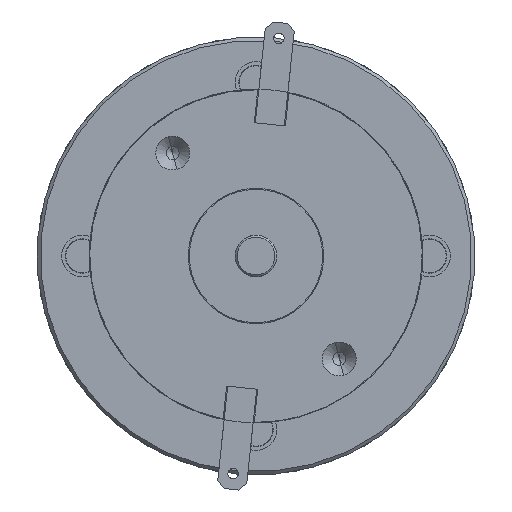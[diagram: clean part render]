
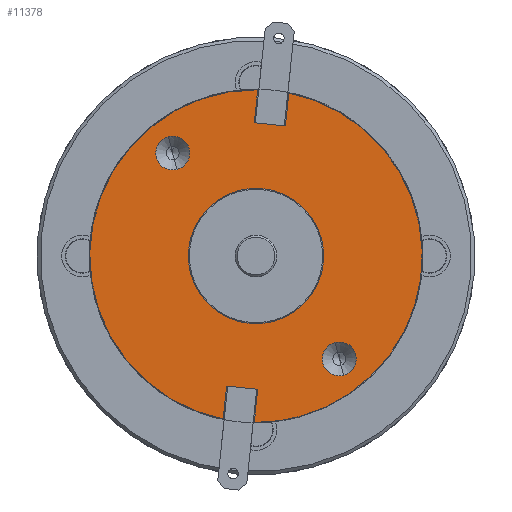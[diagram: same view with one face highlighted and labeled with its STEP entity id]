
A CAD part, left-side view. The second image highlights one B-rep face of the part: STEP entity #11378.
In plain terms, the highlighted planar face has unit normal (-1, 0, 0) as drawn and (1, 0, 0) by its records, which use the part's own axes.
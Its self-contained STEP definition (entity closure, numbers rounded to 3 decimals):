
#408 = VERTEX_POINT ( 'NONE', #20461 ) ;
#462 = CARTESIAN_POINT ( 'NONE',  ( 82.1, 0., 0. ) ) ;
#491 = CARTESIAN_POINT ( 'NONE',  ( 82.1, 0., 0. ) ) ;
#676 = DIRECTION ( 'NONE',  ( -1., 0., 0. ) ) ;
#742 = VERTEX_POINT ( 'NONE', #24782 ) ;
#933 = CARTESIAN_POINT ( 'NONE',  ( 82.1, 5.166, -11.602 ) ) ;
#1078 = CARTESIAN_POINT ( 'NONE',  ( 82.1, -5.166, 11.602 ) ) ;
#1171 = EDGE_CURVE ( 'NONE', #7448, #14875, #14735, .T. ) ;
#1537 = DIRECTION ( 'NONE',  ( 0., 0.934, -0.358 ) ) ;
#1955 = DIRECTION ( 'NONE',  ( -1., 0., 0. ) ) ;
#2158 = CARTESIAN_POINT ( 'NONE',  ( 82.1, -3.151, -12.394 ) ) ;
#2370 = ORIENTED_EDGE ( 'NONE', *, *, #22466, .F. ) ;
#2483 = DIRECTION ( 'NONE',  ( 0., 0., 1. ) ) ;
#2842 = CARTESIAN_POINT ( 'NONE',  ( 82.1, 0., 6.5 ) ) ;
#2860 = EDGE_CURVE ( 'NONE', #408, #13857, #7789, .T. ) ;
#2883 = CIRCLE ( 'NONE', #21875, 15.95 ) ;
#2913 = DIRECTION ( 'NONE',  ( 0., 0., 1. ) ) ;
#3062 = DIRECTION ( 'NONE',  ( 0., 0., 1. ) ) ;
#3269 = CARTESIAN_POINT ( 'NONE',  ( 82.1, 15.95, 0. ) ) ;
#3627 = VECTOR ( 'NONE', #3798, 1000. ) ;
#3798 = DIRECTION ( 'NONE',  ( 0., -0.358, -0.934 ) ) ;
#4059 = VECTOR ( 'NONE', #15300, 1000. ) ;
#4137 = VECTOR ( 'NONE', #8266, 1000. ) ;
#4225 = CARTESIAN_POINT ( 'NONE',  ( 82.1, -5.952, -11.319 ) ) ;
#4251 = CIRCLE ( 'NONE', #10890, 1.625 ) ;
#4349 = ORIENTED_EDGE ( 'NONE', *, *, #4986, .T. ) ;
#4893 = DIRECTION ( 'NONE',  ( -1., 0., 0. ) ) ;
#4920 = CIRCLE ( 'NONE', #21987, 15.95 ) ;
#4986 = EDGE_CURVE ( 'NONE', #13497, #11729, #18332, .T. ) ;
#5077 = ORIENTED_EDGE ( 'NONE', *, *, #21503, .F. ) ;
#5087 = EDGE_CURVE ( 'NONE', #13497, #16618, #16405, .T. ) ;
#5207 = PLANE ( 'NONE',  #20406 ) ;
#5208 = CARTESIAN_POINT ( 'NONE',  ( 82.1, -5.166, 13.227 ) ) ;
#5253 = EDGE_CURVE ( 'NONE', #742, #6983, #4251, .T. ) ;
#5297 = DIRECTION ( 'NONE',  ( 0., 0., 1. ) ) ;
#5637 = VERTEX_POINT ( 'NONE', #5793 ) ;
#5793 = CARTESIAN_POINT ( 'NONE',  ( 82.1, 0., 15.95 ) ) ;
#5997 = VERTEX_POINT ( 'NONE', #6917 ) ;
#6036 = DIRECTION ( 'NONE',  ( -1., 0., 0. ) ) ;
#6191 = VERTEX_POINT ( 'NONE', #23542 ) ;
#6392 = ORIENTED_EDGE ( 'NONE', *, *, #9953, .F. ) ;
#6917 = CARTESIAN_POINT ( 'NONE',  ( 82.1, 3.151, 12.394 ) ) ;
#6983 = VERTEX_POINT ( 'NONE', #5208 ) ;
#7448 = VERTEX_POINT ( 'NONE', #18634 ) ;
#7479 = VERTEX_POINT ( 'NONE', #24795 ) ;
#7789 = CIRCLE ( 'NONE', #17766, 6.5 ) ;
#7804 = FACE_BOUND ( 'NONE', #15658, .T. ) ;
#8074 = ORIENTED_EDGE ( 'NONE', *, *, #10344, .T. ) ;
#8130 = EDGE_CURVE ( 'NONE', #7479, #6191, #24118, .T. ) ;
#8266 = DIRECTION ( 'NONE',  ( 0., 0.358, 0.934 ) ) ;
#8312 = CARTESIAN_POINT ( 'NONE',  ( 82.1, -4.29, -15.362 ) ) ;
#8325 = ORIENTED_EDGE ( 'NONE', *, *, #8130, .T. ) ;
#8990 = ORIENTED_EDGE ( 'NONE', *, *, #2860, .T. ) ;
#9355 = EDGE_LOOP ( 'NONE', ( #2370, #20610, #5077, #10336, #17462, #18838, #4349, #6392, #10782 ) ) ;
#9507 = EDGE_LOOP ( 'NONE', ( #12564, #8990 ) ) ;
#9583 = CIRCLE ( 'NONE', #9986, 15.95 ) ;
#9633 = CIRCLE ( 'NONE', #25377, 1.625 ) ;
#9782 = AXIS2_PLACEMENT_3D ( 'NONE', #933, #14861, #2913 ) ;
#9953 = EDGE_CURVE ( 'NONE', #14875, #11729, #2883, .T. ) ;
#9986 = AXIS2_PLACEMENT_3D ( 'NONE', #17993, #6036, #20023 ) ;
#10003 = LINE ( 'NONE', #25534, #4059 ) ;
#10088 = CARTESIAN_POINT ( 'NONE',  ( 82.1, 0., 0. ) ) ;
#10336 = ORIENTED_EDGE ( 'NONE', *, *, #14195, .F. ) ;
#10344 = EDGE_CURVE ( 'NONE', #6983, #742, #17237, .T. ) ;
#10782 = ORIENTED_EDGE ( 'NONE', *, *, #1171, .F. ) ;
#10890 = AXIS2_PLACEMENT_3D ( 'NONE', #12634, #676, #14611 ) ;
#11148 = VECTOR ( 'NONE', #14108, 1000. ) ;
#11378 = ADVANCED_FACE ( 'NONE', ( #7804, #17798, #23799, #13127 ), #5207, .F. ) ;
#11485 = CARTESIAN_POINT ( 'NONE',  ( 82.1, 5.952, 11.319 ) ) ;
#11493 = EDGE_CURVE ( 'NONE', #16618, #15887, #10003, .T. ) ;
#11720 = CARTESIAN_POINT ( 'NONE',  ( 82.1, 4.29, 15.362 ) ) ;
#11729 = VERTEX_POINT ( 'NONE', #8312 ) ;
#12035 = EDGE_CURVE ( 'NONE', #5997, #19140, #22798, .T. ) ;
#12082 = DIRECTION ( 'NONE',  ( 0., 0., 1. ) ) ;
#12149 = VECTOR ( 'NONE', #19242, 1000. ) ;
#12564 = ORIENTED_EDGE ( 'NONE', *, *, #20323, .T. ) ;
#12634 = CARTESIAN_POINT ( 'NONE',  ( 82.1, -5.166, 11.602 ) ) ;
#12667 = DIRECTION ( 'NONE',  ( -1., 0., 0. ) ) ;
#13127 = FACE_BOUND ( 'NONE', #9507, .T. ) ;
#13190 = EDGE_CURVE ( 'NONE', #6191, #7479, #9633, .T. ) ;
#13497 = VERTEX_POINT ( 'NONE', #15755 ) ;
#13616 = CARTESIAN_POINT ( 'NONE',  ( 82.1, -7.091, -14.287 ) ) ;
#13781 = CARTESIAN_POINT ( 'NONE',  ( 82.1, 3.449, 4.799 ) ) ;
#13857 = VERTEX_POINT ( 'NONE', #2842 ) ;
#13923 = CARTESIAN_POINT ( 'NONE',  ( 82.1, 0., 0. ) ) ;
#14108 = DIRECTION ( 'NONE',  ( 0., -0.934, 0.358 ) ) ;
#14195 = EDGE_CURVE ( 'NONE', #15887, #5637, #4920, .T. ) ;
#14433 = DIRECTION ( 'NONE',  ( -1., 0., 0. ) ) ;
#14611 = DIRECTION ( 'NONE',  ( 0., 0., 1. ) ) ;
#14735 = LINE ( 'NONE', #15787, #4137 ) ;
#14861 = DIRECTION ( 'NONE',  ( -1., 0., 0. ) ) ;
#14875 = VERTEX_POINT ( 'NONE', #25029 ) ;
#15005 = DIRECTION ( 'NONE',  ( -1., 0., 0. ) ) ;
#15181 = CARTESIAN_POINT ( 'NONE',  ( 82.1, 0.648, 5.874 ) ) ;
#15300 = DIRECTION ( 'NONE',  ( 0., -0.358, -0.934 ) ) ;
#15658 = EDGE_LOOP ( 'NONE', ( #21663, #8074 ) ) ;
#15755 = CARTESIAN_POINT ( 'NONE',  ( 82.1, -3.151, -12.394 ) ) ;
#15787 = CARTESIAN_POINT ( 'NONE',  ( 82.1, 7.109, 14.334 ) ) ;
#15887 = VERTEX_POINT ( 'NONE', #13616 ) ;
#15890 = DIRECTION ( 'NONE',  ( 0., 0., 1. ) ) ;
#16338 = VECTOR ( 'NONE', #1537, 1000. ) ;
#16405 = LINE ( 'NONE', #2158, #11148 ) ;
#16618 = VERTEX_POINT ( 'NONE', #4225 ) ;
#16816 = CARTESIAN_POINT ( 'NONE',  ( 82.1, 5.166, -11.602 ) ) ;
#17225 = DIRECTION ( 'NONE',  ( -1., 0., 0. ) ) ;
#17237 = CIRCLE ( 'NONE', #17508, 1.625 ) ;
#17462 = ORIENTED_EDGE ( 'NONE', *, *, #11493, .F. ) ;
#17508 = AXIS2_PLACEMENT_3D ( 'NONE', #1078, #15005, #3062 ) ;
#17766 = AXIS2_PLACEMENT_3D ( 'NONE', #462, #12667, #25232 ) ;
#17798 = FACE_BOUND ( 'NONE', #23696, .T. ) ;
#17993 = CARTESIAN_POINT ( 'NONE',  ( 82.1, 0., 0. ) ) ;
#18332 = LINE ( 'NONE', #13781, #3627 ) ;
#18634 = CARTESIAN_POINT ( 'NONE',  ( 82.1, 5.952, 11.319 ) ) ;
#18838 = ORIENTED_EDGE ( 'NONE', *, *, #5087, .F. ) ;
#18877 = DIRECTION ( 'NONE',  ( 0., 0., 1. ) ) ;
#19140 = VERTEX_POINT ( 'NONE', #11720 ) ;
#19242 = DIRECTION ( 'NONE',  ( 0., 0.358, 0.934 ) ) ;
#20023 = DIRECTION ( 'NONE',  ( 0., 0., 1. ) ) ;
#20323 = EDGE_CURVE ( 'NONE', #13857, #408, #22483, .T. ) ;
#20406 = AXIS2_PLACEMENT_3D ( 'NONE', #3269, #17225, #5297 ) ;
#20461 = CARTESIAN_POINT ( 'NONE',  ( 82.1, 0., -6.5 ) ) ;
#20610 = ORIENTED_EDGE ( 'NONE', *, *, #12035, .T. ) ;
#21026 = AXIS2_PLACEMENT_3D ( 'NONE', #491, #14433, #2483 ) ;
#21503 = EDGE_CURVE ( 'NONE', #5637, #19140, #9583, .T. ) ;
#21663 = ORIENTED_EDGE ( 'NONE', *, *, #5253, .T. ) ;
#21875 = AXIS2_PLACEMENT_3D ( 'NONE', #13923, #1955, #15890 ) ;
#21987 = AXIS2_PLACEMENT_3D ( 'NONE', #10088, #24096, #12082 ) ;
#22353 = LINE ( 'NONE', #11485, #16338 ) ;
#22466 = EDGE_CURVE ( 'NONE', #5997, #7448, #22353, .T. ) ;
#22483 = CIRCLE ( 'NONE', #21026, 6.5 ) ;
#22798 = LINE ( 'NONE', #15181, #12149 ) ;
#23542 = CARTESIAN_POINT ( 'NONE',  ( 82.1, 5.166, -9.977 ) ) ;
#23685 = ORIENTED_EDGE ( 'NONE', *, *, #13190, .T. ) ;
#23696 = EDGE_LOOP ( 'NONE', ( #8325, #23685 ) ) ;
#23799 = FACE_OUTER_BOUND ( 'NONE', #9355, .T. ) ;
#24096 = DIRECTION ( 'NONE',  ( -1., 0., 0. ) ) ;
#24118 = CIRCLE ( 'NONE', #9782, 1.625 ) ;
#24782 = CARTESIAN_POINT ( 'NONE',  ( 82.1, -5.166, 9.977 ) ) ;
#24795 = CARTESIAN_POINT ( 'NONE',  ( 82.1, 5.166, -13.227 ) ) ;
#25029 = CARTESIAN_POINT ( 'NONE',  ( 82.1, 7.091, 14.287 ) ) ;
#25232 = DIRECTION ( 'NONE',  ( 0., 0., 1. ) ) ;
#25377 = AXIS2_PLACEMENT_3D ( 'NONE', #16816, #4893, #18877 ) ;
#25534 = CARTESIAN_POINT ( 'NONE',  ( 82.1, -7.109, -14.334 ) ) ;
